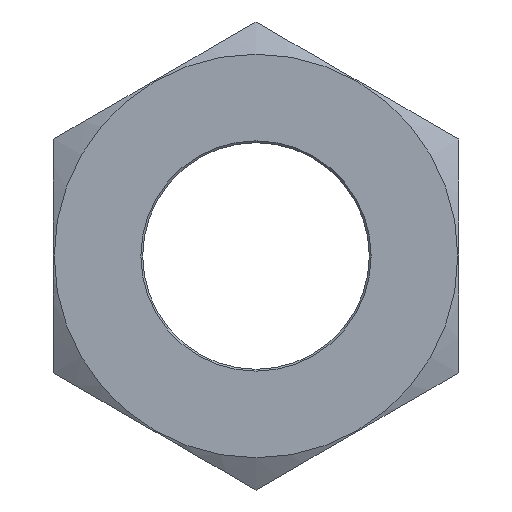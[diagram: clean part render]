
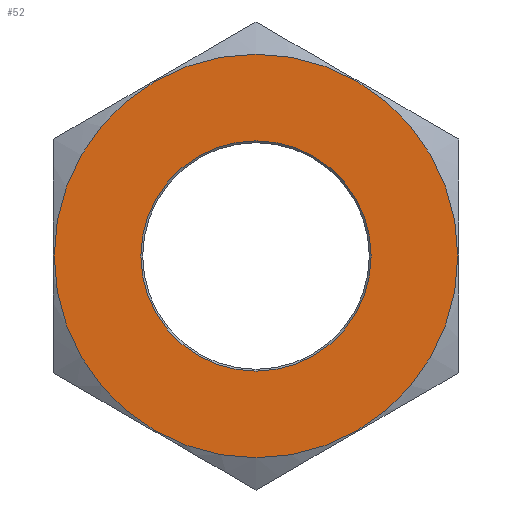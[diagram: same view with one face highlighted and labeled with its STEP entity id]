
A CAD part, left-side view. The second image highlights one B-rep face of the part: STEP entity #52.
In plain terms, the highlighted planar face has unit normal (-1, 0, 0).
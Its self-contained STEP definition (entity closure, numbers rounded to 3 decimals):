
#52 = ADVANCED_FACE( '', ( #108, #109 ), #110, .F. );
#108 = FACE_BOUND( '', #173, .T. );
#109 = FACE_OUTER_BOUND( '', #174, .T. );
#110 = PLANE( '', #175 );
#173 = EDGE_LOOP( '', ( #259 ) );
#174 = EDGE_LOOP( '', ( #260 ) );
#175 = AXIS2_PLACEMENT_3D( '', #261, #262, #263 );
#259 = ORIENTED_EDGE( '', *, *, #355, .T. );
#260 = ORIENTED_EDGE( '', *, *, #356, .T. );
#261 = CARTESIAN_POINT( '', ( -16., 0., 0. ) );
#262 = DIRECTION( '', ( 1., 0., 0. ) );
#263 = DIRECTION( '', ( 0., 1., 0. ) );
#355 = EDGE_CURVE( '', #412, #412, #413, .T. );
#356 = EDGE_CURVE( '', #414, #414, #415, .T. );
#412 = VERTEX_POINT( '', #592 );
#413 = CIRCLE( '', #593, 6.25 );
#414 = VERTEX_POINT( '', #594 );
#415 = CIRCLE( '', #595, 10.952 );
#592 = CARTESIAN_POINT( '', ( -16., 6.25, 0. ) );
#593 = AXIS2_PLACEMENT_3D( '', #651, #652, #653 );
#594 = CARTESIAN_POINT( '', ( -16., 0., 10.952 ) );
#595 = AXIS2_PLACEMENT_3D( '', #654, #655, #656 );
#651 = CARTESIAN_POINT( '', ( -16., 0., 0. ) );
#652 = DIRECTION( '', ( 1., 0., 0. ) );
#653 = DIRECTION( '', ( 0., 1., 0. ) );
#654 = CARTESIAN_POINT( '', ( -16., 0., 0. ) );
#655 = DIRECTION( '', ( -1., 0., 0. ) );
#656 = DIRECTION( '', ( 0., 0., 1. ) );
